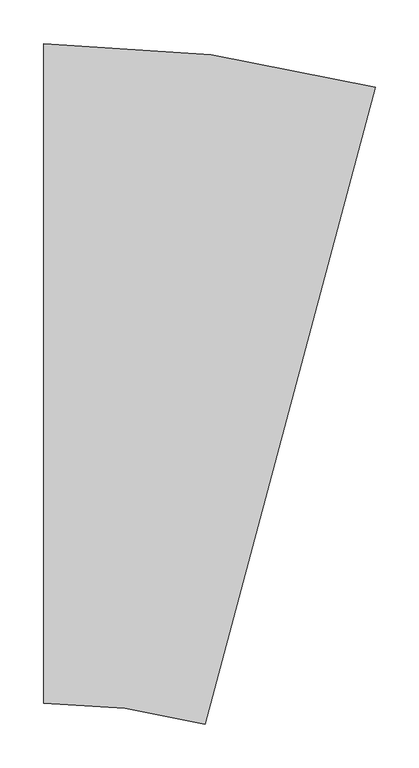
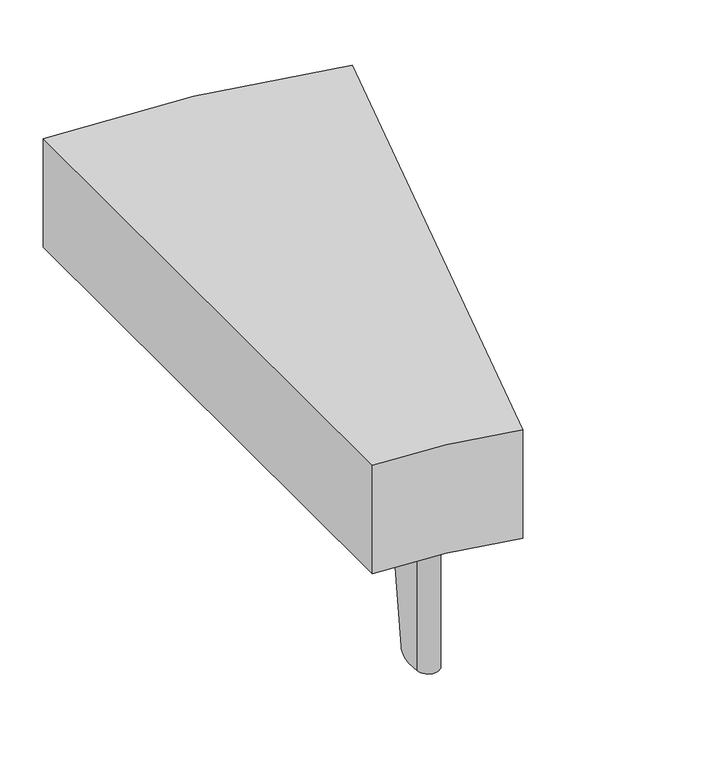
"""IFC4 building model written with IfcOpenShell, lengths in millimetres: furniture geometry, Stance_HC-Flora-Table_Curve_15 : FATR15WC-P."""

from ifc_helpers import new_model, si_unit, point, frame, frame_2d, origin, origin_with_axes, place, context, project, spatial, polyline, circle_curve, ellipse_curve, trimmed, segment, composite_curve, outline, extrude, source, transform, mapped, element, save
from ifc_brep_helpers import plane_surface, cylinder_surface, revolved_surface, advanced_brep


def furniture_20ee3a26(model_context):
    return source(origin(), model_context, "Body", "SolidModel", [
        extrude(outline(composite_curve([segment(polyline([(116.3923367, -698.9210214), (111.5082099, -714.4115913)]), True, "CONTINUOUS"), segment(trimmed(circle_curve(frame_2d((100.4500496, -710.9249889)), 11.5947965), [point((111.5082099, -714.4115913))], [point((88.8662878, -711.4307257))], False, "CARTESIAN"), True, "CONTINUOUS"), segment(polyline([(88.8662878, -711.4307257), (88.1578381, -695.2038792), (116.3923367, -698.9210214)]), True, "CONTINUOUS")], self_intersect=False)), frame((0.0, 0.0, 3.175), z_axis=(0.0, 0.0, 1.0), x_axis=(1.0, 0.0, 0.0)), (0.0, 0.0, 1.0), 3.3792927),
        advanced_brep(
        [(83.2274117, -655.966058, 193.6877233), (85.6550709, -711.5709246, 193.6877233), (114.5737211, -715.3781371, 193.6877233), (131.3102573, -662.2962879, 193.6877233), (128.2447461, -661.3297421, 193.6877233), (111.5082099, -714.4115913, 193.6877233), (88.8662878, -711.4307257, 193.6877233), (86.4386286, -655.8258591, 193.6877233), (83.2274117, -655.966058, 189.1419595), (88.8662878, -711.4307257, 3.1876992), (88.0966614, -693.8026456, 3.1876992), (87.3987919, -677.8181355, 17.1280233), (111.5082099, -714.4115913, 3.1876992), (121.6252806, -682.3241382, 17.1280233), (116.8140947, -697.5833675, 3.1876992), (131.3102573, -662.2962879, 189.1419334), (114.5737211, -715.3781371, 3.1876992), (120.0500322, -698.0093867, 3.1876992), (124.861218, -682.7501575, 17.1280233), (85.6550709, -711.5709246, 3.1876992), (84.1628544, -677.3921163, 17.1280233), (84.860724, -693.3766264, 3.1876992)],
        [
            (0, 1),
            (1, 2, circle_curve(frame((100.4500496, -710.9249889, 193.6877233), z_axis=(0.0, 0.0, 1.0), x_axis=(0.7933533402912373, 0.608761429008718, 0.0)), 14.8090724)),
            (2, 3),
            (3, 4),
            (4, 5),
            (5, 6, circle_curve(frame((100.4500496, -710.9249889, 193.6877233), z_axis=(0.0, 0.0, -1.0), x_axis=(0.7933533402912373, 0.608761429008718, 0.0)), 11.5947965)),
            (6, 7),
            (7, 0),
            (7, 8),
            (8, 0),
            (6, 9),
            (9, 10),
            (10, 11, ellipse_curve(frame((88.0966614, -693.8026456, 19.0626992), z_axis=(0.9990483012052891, 0.04361756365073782, 0.0), x_axis=(-0.04361756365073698, 0.999048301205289, 0.0)), 16.1198923, 15.875)),
            (11, 7),
            (5, 12),
            (12, 9, circle_curve(frame((100.4500496, -710.9249889, 3.1876992), z_axis=(0.0, 0.0, -1.0), x_axis=(0.7933533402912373, 0.608761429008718, 0.0)), 11.5947965)),
            (4, 13),
            (13, 14, ellipse_curve(frame((116.8140947, -697.5833675, 19.0626992), z_axis=(-0.9537174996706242, 0.3007040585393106, 0.0), x_axis=(-0.3007040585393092, -0.9537174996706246, 0.0)), 16.1198923, 15.875)),
            (14, 12),
            (3, 15),
            (15, 4),
            (2, 16),
            (16, 17),
            (17, 18, ellipse_curve(frame((120.0500322, -698.0093867, 19.0626992), z_axis=(0.9537174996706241, -0.3007040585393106, 0.0), x_axis=(-0.3007040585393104, -0.9537174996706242, 0.0)), 16.1198923, 15.875)),
            (18, 15),
            (1, 19),
            (19, 16, circle_curve(frame((100.4500496, -710.9249889, 3.1876992), z_axis=(0.0, 0.0, 1.0), x_axis=(0.7933533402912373, 0.608761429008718, 0.0)), 14.8090724)),
            (8, 20),
            (20, 21, ellipse_curve(frame((84.860724, -693.3766264, 19.0626992), z_axis=(-0.9990483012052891, -0.04361756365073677, 0.0), x_axis=(-0.0436175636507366, 0.999048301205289, 0.0)), 16.1198923, 15.875)),
            (21, 19),
            (18, 13),
            (11, 20),
            (21, 10),
            (14, 17),
        ],
        [
            plane_surface(frame((86.4386286, -655.8258591, 193.6877233), z_axis=(0.0, 0.0, 1.0), x_axis=(0.9990483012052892, 0.04361756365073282, 0.0))),
            plane_surface(frame((83.2274117, -655.966058, 193.6877233), z_axis=(-0.04361756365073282, 0.9990483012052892, 0.0), x_axis=(0.0, 0.0, -1.0))),
            plane_surface(frame((86.4386286, -655.8258591, 193.6877233), z_axis=(0.9990483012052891, 0.04361756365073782, 0.0), x_axis=(0.0, 0.0, -1.0))),
            revolved_surface(polyline([(109.64882013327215, -703.8665240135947, 3.1876992), (109.64882013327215, -703.8665240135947, 193.6877233)]), (100.4500496, -710.9249889, 0.0), (0.0, 0.0, -1.0)),
            plane_surface(frame((111.5082099, -714.4115913, 193.6877233), z_axis=(-0.953717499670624, 0.30070405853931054, 0.0), x_axis=(0.0, 0.0, -1.0))),
            plane_surface(frame((128.2447461, -661.3297421, 193.6877233), z_axis=(0.3007040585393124, 0.9537174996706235, 0.0), x_axis=(0.0, 0.0, -1.0))),
            plane_surface(frame((131.3102573, -662.2962879, 193.6877233), z_axis=(0.9537174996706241, -0.3007040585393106, 0.0), x_axis=(0.0, 0.0, -1.0))),
            cylinder_surface(frame((100.4500496, -710.9249889, 0.0), z_axis=(0.0, 0.0, 1.0), x_axis=(0.7933533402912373, 0.608761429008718, 0.0)), 14.8090724),
            plane_surface(frame((85.6550709, -711.5709246, 193.6877233), z_axis=(-0.9990483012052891, -0.04361756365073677, 0.0), x_axis=(0.0, 0.0, -1.0))),
            plane_surface(frame((133.1109853, -683.83626, 17.1280233), z_axis=(0.1295532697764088, 0.9840547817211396, -0.1218693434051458), x_axis=(-0.9914448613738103, 0.1305261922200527, 0.0))),
            plane_surface(frame((127.1135285, -729.3914673, 3.1876992), z_axis=(0.0, 0.0, -1.0), x_axis=(-0.9914448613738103, 0.1305261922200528, 0.0))),
            cylinder_surface(frame((73.8681747, -691.9294298, 19.0626992), z_axis=(-0.9914448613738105, 0.13052619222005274, 0.0), x_axis=(0.13052619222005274, 0.9914448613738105, 0.0)), 15.875),
        ],
        [
            (0, [[1, 2, 3, 4, 5, 6, 7, 8]]),
            (1, [[9, 10, -8]]),
            (2, [[11, 12, 13, 14, -7]]),
            (3, [[15, 16, -11, -6]]),
            (4, [[17, 18, 19, -15, -5]]),
            (5, [[20, 21, -4]]),
            (6, [[22, 23, 24, 25, -20, -3]]),
            (7, [[26, 27, -22, -2]]),
            (8, [[-10, 28, 29, 30, -26, -1]]),
            (9, [[-17, -21, -25, 31]]),
            (9, [[-28, -9, -14, 32]]),
            (10, [[-23, -27, -30, 33, -12, -16, -19, 34]]),
            (11, [[-13, -33, -29, -32]]),
            (11, [[-24, -34, -18, -31]]),
        ],
    ),
        extrude(outline(composite_curve([segment(trimmed(circle_curve(frame_2d((100.8304881, -708.0806529)), 11.1125), [point((92.0143491, -714.8455143))], [point((109.6466271, -701.3157915))], False, "CARTESIAN"), True, "CONTINUOUS"), segment(trimmed(circle_curve(frame_2d((100.8304881, -708.0806529)), 11.1125), [point((109.6466271, -701.3157915))], [point((92.0143491, -714.8455143))], False, "CARTESIAN"), True, "CONTINUOUS")], self_intersect=False)), origin_with_axes(), (0.0, 0.0, 1.0), 3.175),
        extrude(outline(composite_curve([segment(trimmed(circle_curve(frame_2d((100.2065534, -712.7745305)), 15.8749964), [point((110.7256441, -724.6642))], [point((86.9686192, -721.5365285))], False, "CARTESIAN"), True, "CONTINUOUS"), segment(polyline([(86.9686192, -721.5365285), (31.606172, -637.8929995), (37.1163128, -596.0393538), (119.5802299, -565.6168022), (191.3603387, -616.3459599), (185.8502015, -658.1996074), (110.7256441, -724.6642)]), True, "CONTINUOUS")], self_intersect=False)), frame((0.0, 0.0, 193.6877233), z_axis=(0.0, 0.0, 1.0), x_axis=(1.0, 0.0, 0.0)), (0.0, 0.0, 1.0), 4.7751809),
        extrude(outline(composite_curve([segment(polyline([(0.0, -757.2502172), (0.0, 0.0)]), True, "CONTINUOUS"), segment(trimmed(circle_curve(frame_2d((0.0, -1473.9188659)), 1473.9188659), [point((0.0, 0.0))], [point((381.4782734, -50.2225675))], False, "CARTESIAN"), True, "CONTINUOUS"), segment(polyline([(381.4782734, -50.2225675), (185.4874953, -781.6701093)]), True, "CONTINUOUS"), segment(trimmed(circle_curve(frame_2d((0.0, -1473.9188659)), 716.6686487), [point((185.4874953, -781.6701093))], [point((0.0, -757.2502172))], True, "CARTESIAN"), True, "CONTINUOUS")], self_intersect=False)), frame((0.0, 0.0, 196.85), z_axis=(0.0, 0.0, 1.0), x_axis=(1.0, 0.0, 0.0)), (0.0, 0.0, 1.0), 152.399991),
        extrude(outline(composite_curve([segment(polyline([(319.4007878, -83.8965149), (334.6635511, -78.3412918)]), True, "CONTINUOUS"), segment(trimmed(circle_curve(frame_2d((338.629225, -89.2368293)), 11.5947965), [point((334.6635511, -78.3412918))], [point((346.0822003, -98.1189723))], False, "CARTESIAN"), True, "CONTINUOUS"), segment(polyline([(346.0822003, -98.1189723), (333.6398543, -108.5593015), (319.4007878, -83.8965149)]), True, "CONTINUOUS")], self_intersect=False)), frame((0.0, 0.0, 3.175), z_axis=(0.0, 0.0, 1.0), x_axis=(1.0, 0.0, 0.0)), (0.0, 0.0, 1.0), 3.3792927),
        advanced_brep(
        [(305.5118512, -136.3573439, 193.6877233), (348.1482925, -100.5812543, 193.6877233), (333.5641985, -75.3208624, 193.6877233), (281.2629784, -94.3570579, 193.6877233), (282.3623311, -97.3774872, 193.6877233), (334.6635511, -78.3412918, 193.6877233), (346.0822003, -98.1189723, 193.6877233), (303.4457589, -133.8950619, 193.6877233), (305.5118512, -136.3573439, 189.1419595), (346.0822003, -98.1189723, 3.1876992), (332.5654229, -109.4608531, 3.1876992), (320.3088945, -119.7452635, 17.1280233), (334.6635511, -78.3412918, 3.1876992), (303.0479807, -89.8484837, 17.1280233), (318.0828055, -84.3762239, 3.1876992), (281.2629784, -94.3570579, 189.1419334), (333.5641985, -75.3208624, 3.1876992), (316.4508754, -81.549638, 3.1876992), (301.4160505, -87.0218978, 17.1280233), (348.1482925, -100.5812543, 3.1876992), (321.9408246, -122.5718494, 17.1280233), (334.1973531, -112.287439, 3.1876992)],
        [
            (0, 1),
            (1, 2, circle_curve(frame((338.629225, -89.2368293, 193.6877233), z_axis=(0.0, 0.0, 1.0), x_axis=(-0.9659258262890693, 0.25881904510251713, 0.0)), 14.8090724)),
            (2, 3),
            (3, 4),
            (4, 5),
            (5, 6, circle_curve(frame((338.629225, -89.2368293, 193.6877233), z_axis=(0.0, 0.0, -1.0), x_axis=(-0.9659258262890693, 0.25881904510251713, 0.0)), 11.5947965)),
            (6, 7),
            (7, 0),
            (7, 8),
            (8, 0),
            (6, 9),
            (9, 10),
            (10, 11, ellipse_curve(frame((332.5654229, -109.4608531, 19.0626992), z_axis=(-0.6427862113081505, 0.7660456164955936, 0.0), x_axis=(-0.7660456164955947, -0.642786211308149, 0.0)), 16.1198923, 15.875)),
            (11, 7),
            (5, 12),
            (12, 9, circle_curve(frame((338.629225, -89.2368293, 3.1876992), z_axis=(0.0, 0.0, -1.0), x_axis=(-0.9659258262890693, 0.25881904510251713, 0.0)), 11.5947965)),
            (4, 13),
            (13, 14, ellipse_curve(frame((318.0828055, -84.3762239, 19.0626992), z_axis=(0.34202185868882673, -0.939691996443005, 0.0), x_axis=(0.9396919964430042, 0.3420218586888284, 0.0)), 16.1198923, 15.875)),
            (14, 12),
            (3, 15),
            (15, 4),
            (2, 16),
            (16, 17),
            (17, 18, ellipse_curve(frame((316.4508754, -81.549638, 19.0626992), z_axis=(-0.3420218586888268, 0.9396919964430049, 0.0), x_axis=(0.9396919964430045, 0.34202185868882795, 0.0)), 16.1198923, 15.875)),
            (18, 15),
            (1, 19),
            (19, 16, circle_curve(frame((338.629225, -89.2368293, 3.1876992), z_axis=(0.0, 0.0, 1.0), x_axis=(-0.9659258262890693, 0.25881904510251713, 0.0)), 14.8090724)),
            (8, 20),
            (20, 21, ellipse_curve(frame((334.1973531, -112.287439, 19.0626992), z_axis=(0.6427862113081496, -0.7660456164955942, 0.0), x_axis=(-0.766045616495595, -0.6427862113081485, 0.0)), 16.1198923, 15.875)),
            (21, 19),
            (18, 13),
            (11, 20),
            (21, 10),
            (14, 17),
        ],
        [
            plane_surface(frame((303.4457589, -133.8950619, 193.6877233), z_axis=(0.0, 0.0, 1.0000000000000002), x_axis=(-0.6427862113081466, 0.7660456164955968, 0.0))),
            plane_surface(frame((305.5118512, -136.3573439, 193.6877233), z_axis=(-0.7660456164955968, -0.6427862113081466, 0.0), x_axis=(0.0, 0.0, -1.0))),
            plane_surface(frame((303.4457589, -133.8950619, 193.6877233), z_axis=(-0.6427862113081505, 0.7660456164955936, 0.0), x_axis=(0.0, 0.0, -1.0))),
            revolved_surface(polyline([(327.4295116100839, -86.23587514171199, 3.1876992), (327.4295116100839, -86.23587514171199, 193.6877233)]), (338.629225, -89.2368293, 0.0), (0.0, 0.0, -1.0)),
            plane_surface(frame((334.6635511, -78.3412918, 193.6877233), z_axis=(0.3420218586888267, -0.9396919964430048, 0.0), x_axis=(0.0, 0.0, -1.0))),
            plane_surface(frame((282.3623311, -97.3774872, 193.6877233), z_axis=(-0.9396919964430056, -0.342021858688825, 0.0), x_axis=(0.0, 0.0, -1.0))),
            plane_surface(frame((281.2629784, -94.3570579, 193.6877233), z_axis=(-0.3420218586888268, 0.9396919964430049, 0.0), x_axis=(0.0, 0.0, -1.0))),
            cylinder_surface(frame((338.629225, -89.2368293, 0.0), z_axis=(0.0, 0.0, 1.0), x_axis=(-0.9659258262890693, 0.25881904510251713, 0.0)), 14.8090724),
            plane_surface(frame((348.1482925, -100.5812543, 193.6877233), z_axis=(0.6427862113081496, -0.7660456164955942, 0.0), x_axis=(0.0, 0.0, -1.0))),
            plane_surface(frame((297.2555735, -79.8157401, 17.1280233), z_axis=(-0.8595701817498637, -0.49627307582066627, -0.12186934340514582), x_axis=(0.5000000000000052, -0.8660254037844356, 0.0))),
            plane_surface(frame((337.0479697, -56.8415895, 3.1876992), z_axis=(0.0, 0.0, -1.0), x_axis=(0.5000000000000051, -0.8660254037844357, 0.0))),
            cylinder_surface(frame((339.7410549, -121.8894122, 19.0626992), z_axis=(0.5000000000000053, -0.8660254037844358, 0.0), x_axis=(-0.8660254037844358, -0.5000000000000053, 0.0)), 15.875),
        ],
        [
            (0, [[1, 2, 3, 4, 5, 6, 7, 8]]),
            (1, [[9, 10, -8]]),
            (2, [[11, 12, 13, 14, -7]]),
            (3, [[15, 16, -11, -6]]),
            (4, [[17, 18, 19, -15, -5]]),
            (5, [[20, 21, -4]]),
            (6, [[22, 23, 24, 25, -20, -3]]),
            (7, [[26, 27, -22, -2]]),
            (8, [[-10, 28, 29, 30, -26, -1]]),
            (9, [[-17, -21, -25, 31]]),
            (9, [[-28, -9, -14, 32]]),
            (10, [[-23, -27, -30, 33, -12, -16, -19, 34]]),
            (11, [[-13, -33, -29, -32]]),
            (11, [[-24, -34, -18, -31]]),
        ],
    ),
        extrude(outline(composite_curve([segment(trimmed(circle_curve(frame_2d((336.1410652, -90.6665291)), 11.1125), [point((346.8749159, -93.5426557))], [point((325.4072145, -87.7904025))], False, "CARTESIAN"), True, "CONTINUOUS"), segment(trimmed(circle_curve(frame_2d((336.1410652, -90.6665291)), 11.1125), [point((325.4072145, -87.7904025))], [point((346.8749159, -93.5426557))], False, "CARTESIAN"), True, "CONTINUOUS")], self_intersect=False)), origin_with_axes(), (0.0, 0.0, 1.0), 3.175),
        extrude(outline(composite_curve([segment(trimmed(circle_curve(frame_2d((340.2447961, -88.3040782)), 15.8749964), [point((343.2738883, -72.7207502))], [point((355.2549001, -93.4724711))], False, "CARTESIAN"), True, "CONTINUOUS"), segment(polyline([(355.2549001, -93.4724711), (322.5985495, -188.3134077), (286.0394587, -209.4208042), (211.7027737, -162.5178562), (208.2519588, -74.6889125), (244.8110489, -53.581512), (343.2738883, -72.7207502)]), True, "CONTINUOUS")], self_intersect=False)), frame((0.0, 0.0, 193.6877233), z_axis=(0.0, 0.0, 1.0), x_axis=(1.0, 0.0, 0.0)), (0.0, 0.0, 1.0), 4.7751809),
    ])


if __name__ == "__main__":
    model = new_model("IFC4")
    model_context = context("Model", 3, world=origin())
    ifc_project = project(units=[si_unit("LENGTHUNIT", "METRE", prefix="MILLI")], contexts=[model_context])
    site = spatial("IfcSite", under=ifc_project)
    building = spatial("IfcBuilding", under=site)
    placement = place(None, origin())
    furniture_shape = furniture_20ee3a26(model_context)
    element("IfcFurniture", 1, ObjectType="Stance_HC-Flora-Table_Curve_15 : FATR15WC-P", at=placement, inside=building, context=model_context, shape_type="MappedRepresentation", body=[
        mapped(furniture_shape, transform((0.0, 0.0, 0.0), x_axis=(1.0, 0.0, 0.0), y_axis=(0.0, 1.0, 0.0), z_axis=(0.0, 0.0, 1.0))),
    ])
    save(model, "model.ifc")
